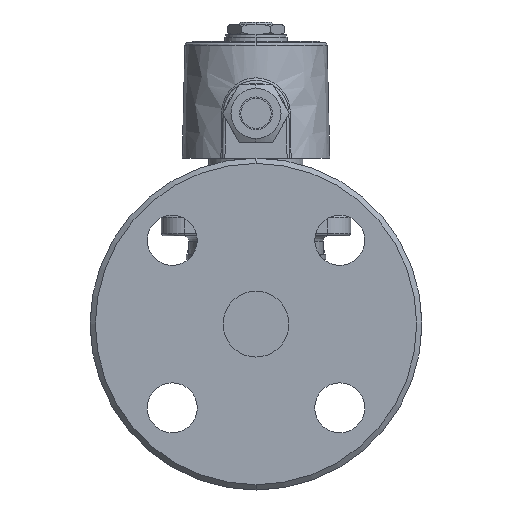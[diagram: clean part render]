
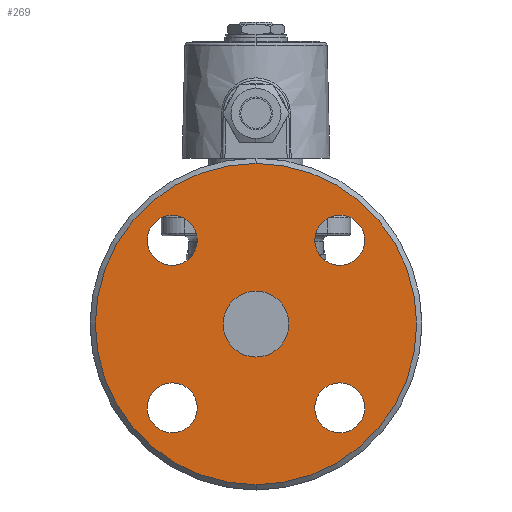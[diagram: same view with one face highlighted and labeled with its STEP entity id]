
A CAD part, left-side view. The second image highlights one B-rep face of the part: STEP entity #269.
In plain terms, the highlighted planar face has unit normal (-1, 0, 0).
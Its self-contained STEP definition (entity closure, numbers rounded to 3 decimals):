
#269=ADVANCED_FACE('',(#1106,#1107,#1108,#1109,#1110,#1111),#1105,.F.);
#1105=PLANE('',#5697);
#1106=FACE_OUTER_BOUND('',#5698,.T.);
#1107=FACE_BOUND('',#5699,.T.);
#1108=FACE_BOUND('',#5700,.T.);
#1109=FACE_BOUND('',#5701,.T.);
#1110=FACE_BOUND('',#5702,.T.);
#1111=FACE_BOUND('',#5703,.T.);
#5694=CARTESIAN_POINT('',(-72.5,-115.655,132.));
#5695=DIRECTION('',(1.,0.,0.));
#5696=DIRECTION('',(0.,0.,-1.));
#5697=AXIS2_PLACEMENT_3D('',#5694,#5695,#5696);
#5698=EDGE_LOOP('',(#10610,#10611));
#5699=EDGE_LOOP('',(#10612,#10613));
#5700=EDGE_LOOP('',(#10614,#10615));
#5701=EDGE_LOOP('',(#10616,#10617));
#5702=EDGE_LOOP('',(#10618,#10619));
#5703=EDGE_LOOP('',(#10620,#10621));
#10610=ORIENTED_EDGE('',*,*,#12485,.T.);
#10611=ORIENTED_EDGE('',*,*,#12486,.T.);
#10612=ORIENTED_EDGE('',*,*,#12487,.T.);
#10613=ORIENTED_EDGE('',*,*,#12488,.T.);
#10614=ORIENTED_EDGE('',*,*,#12489,.T.);
#10615=ORIENTED_EDGE('',*,*,#12490,.T.);
#10616=ORIENTED_EDGE('',*,*,#12491,.T.);
#10617=ORIENTED_EDGE('',*,*,#12492,.T.);
#10618=ORIENTED_EDGE('',*,*,#12493,.T.);
#10619=ORIENTED_EDGE('',*,*,#12494,.T.);
#10620=ORIENTED_EDGE('',*,*,#12495,.T.);
#10621=ORIENTED_EDGE('',*,*,#12496,.T.);
#12485=EDGE_CURVE('',#14331,#14332,#14333,.T.);
#12486=EDGE_CURVE('',#14332,#14331,#14339,.T.);
#12487=EDGE_CURVE('',#14345,#14346,#14347,.T.);
#12488=EDGE_CURVE('',#14346,#14345,#14353,.T.);
#12489=EDGE_CURVE('',#14359,#14360,#14361,.T.);
#12490=EDGE_CURVE('',#14360,#14359,#14367,.T.);
#12491=EDGE_CURVE('',#14373,#14374,#14375,.T.);
#12492=EDGE_CURVE('',#14374,#14373,#14381,.T.);
#12493=EDGE_CURVE('',#14387,#14388,#14389,.T.);
#12494=EDGE_CURVE('',#14388,#14387,#14395,.T.);
#12495=EDGE_CURVE('',#14401,#14402,#14403,.T.);
#12496=EDGE_CURVE('',#14402,#14401,#14409,.T.);
#14331=VERTEX_POINT('',#20634);
#14332=VERTEX_POINT('',#20635);
#14333=CIRCLE('',#20639,61.);
#14339=CIRCLE('',#20643,61.);
#14345=VERTEX_POINT('',#20644);
#14346=VERTEX_POINT('',#20645);
#14347=CIRCLE('',#20649,12.5);
#14353=CIRCLE('',#20653,12.5);
#14359=VERTEX_POINT('',#20654);
#14360=VERTEX_POINT('',#20655);
#14361=CIRCLE('',#20659,9.5);
#14367=CIRCLE('',#20663,9.5);
#14373=VERTEX_POINT('',#20664);
#14374=VERTEX_POINT('',#20665);
#14375=CIRCLE('',#20669,9.5);
#14381=CIRCLE('',#20673,9.5);
#14387=VERTEX_POINT('',#20674);
#14388=VERTEX_POINT('',#20675);
#14389=CIRCLE('',#20679,9.5);
#14395=CIRCLE('',#20683,9.5);
#14401=VERTEX_POINT('',#20684);
#14402=VERTEX_POINT('',#20685);
#14403=CIRCLE('',#20689,9.5);
#14409=CIRCLE('',#20693,9.5);
#20634=CARTESIAN_POINT('',(-72.5,0.,-61.));
#20635=CARTESIAN_POINT('',(-72.5,0.,61.));
#20636=CARTESIAN_POINT('',(-72.5,0.,0.));
#20637=DIRECTION('',(-1.,0.,0.));
#20638=DIRECTION('',(0.,0.,-1.));
#20639=AXIS2_PLACEMENT_3D('',#20636,#20637,#20638);
#20640=CARTESIAN_POINT('',(-72.5,0.,0.));
#20641=DIRECTION('',(-1.,0.,0.));
#20642=DIRECTION('',(0.,0.,-1.));
#20643=AXIS2_PLACEMENT_3D('',#20640,#20641,#20642);
#20644=CARTESIAN_POINT('',(-72.5,0.,12.5));
#20645=CARTESIAN_POINT('',(-72.5,0.,-12.5));
#20646=CARTESIAN_POINT('',(-72.5,0.,0.));
#20647=DIRECTION('',(1.,0.,0.));
#20648=DIRECTION('',(0.,0.,1.));
#20649=AXIS2_PLACEMENT_3D('',#20646,#20647,#20648);
#20650=CARTESIAN_POINT('',(-72.5,0.,0.));
#20651=DIRECTION('',(1.,0.,0.));
#20652=DIRECTION('',(0.,0.,1.));
#20653=AXIS2_PLACEMENT_3D('',#20650,#20651,#20652);
#20654=CARTESIAN_POINT('',(-72.5,-31.82,41.32));
#20655=CARTESIAN_POINT('',(-72.5,-31.82,22.32));
#20656=CARTESIAN_POINT('',(-72.5,-31.82,31.82));
#20657=DIRECTION('',(1.,0.,0.));
#20658=DIRECTION('',(0.,0.,1.));
#20659=AXIS2_PLACEMENT_3D('',#20656,#20657,#20658);
#20660=CARTESIAN_POINT('',(-72.5,-31.82,31.82));
#20661=DIRECTION('',(1.,0.,0.));
#20662=DIRECTION('',(0.,0.,1.));
#20663=AXIS2_PLACEMENT_3D('',#20660,#20661,#20662);
#20664=CARTESIAN_POINT('',(-72.5,31.82,41.32));
#20665=CARTESIAN_POINT('',(-72.5,31.82,22.32));
#20666=CARTESIAN_POINT('',(-72.5,31.82,31.82));
#20667=DIRECTION('',(1.,0.,0.));
#20668=DIRECTION('',(0.,0.,1.));
#20669=AXIS2_PLACEMENT_3D('',#20666,#20667,#20668);
#20670=CARTESIAN_POINT('',(-72.5,31.82,31.82));
#20671=DIRECTION('',(1.,0.,0.));
#20672=DIRECTION('',(0.,0.,1.));
#20673=AXIS2_PLACEMENT_3D('',#20670,#20671,#20672);
#20674=CARTESIAN_POINT('',(-72.5,31.82,-22.32));
#20675=CARTESIAN_POINT('',(-72.5,31.82,-41.32));
#20676=CARTESIAN_POINT('',(-72.5,31.82,-31.82));
#20677=DIRECTION('',(1.,0.,0.));
#20678=DIRECTION('',(0.,0.,1.));
#20679=AXIS2_PLACEMENT_3D('',#20676,#20677,#20678);
#20680=CARTESIAN_POINT('',(-72.5,31.82,-31.82));
#20681=DIRECTION('',(1.,0.,0.));
#20682=DIRECTION('',(0.,0.,1.));
#20683=AXIS2_PLACEMENT_3D('',#20680,#20681,#20682);
#20684=CARTESIAN_POINT('',(-72.5,-31.82,-22.32));
#20685=CARTESIAN_POINT('',(-72.5,-31.82,-41.32));
#20686=CARTESIAN_POINT('',(-72.5,-31.82,-31.82));
#20687=DIRECTION('',(1.,0.,0.));
#20688=DIRECTION('',(0.,0.,1.));
#20689=AXIS2_PLACEMENT_3D('',#20686,#20687,#20688);
#20690=CARTESIAN_POINT('',(-72.5,-31.82,-31.82));
#20691=DIRECTION('',(1.,0.,0.));
#20692=DIRECTION('',(0.,0.,1.));
#20693=AXIS2_PLACEMENT_3D('',#20690,#20691,#20692);
